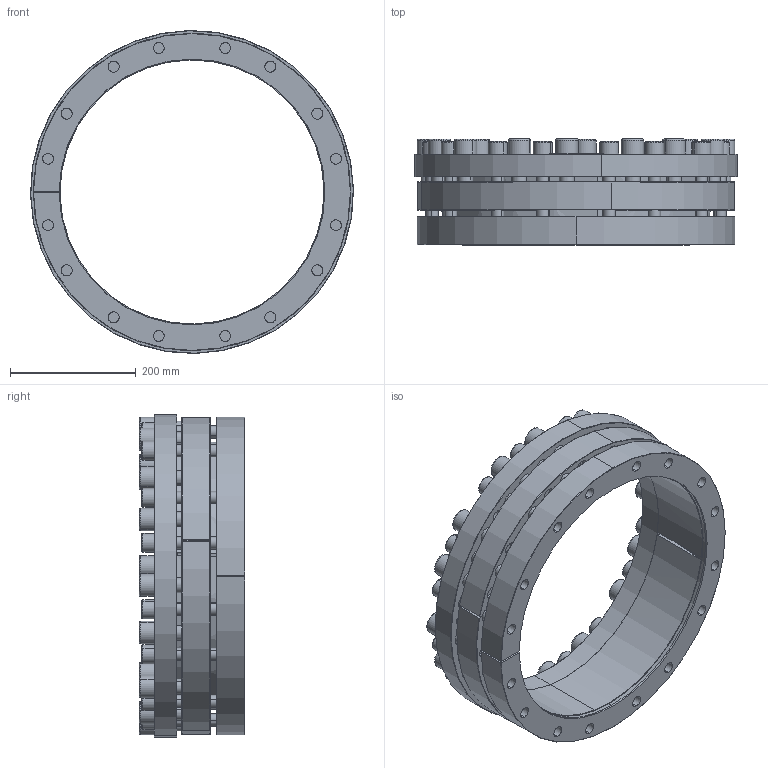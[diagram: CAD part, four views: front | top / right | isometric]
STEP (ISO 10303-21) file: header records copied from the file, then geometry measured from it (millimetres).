
FILE_DESCRIPTION (( 'STEP AP214' ), '1' );
FILE_NAME ('CONEX-P-420x505-P-015.step', '2015-11-30T21:14:53', ( '' ), ( '' ), 'SwSTEP 2.0', 'SolidWorks 2013', '' );
FILE_SCHEMA (( 'AUTOMOTIVE_DESIGN' ));
Length unit declared in the file: millimetre
Products named in the file (1): CONEX-P-420x505-P-015
Bounding box: 513.92 x 168.01 x 513.92 mm (x, y, z)
Volume: 8577931.9 mm3; surface area: 1531203.2 mm2
Topology: 35 solids, 35 shells, 1115 faces, 2565 edges, 1521 vertices
Faces by surface type: plane 501, cylinder 323, cone 163, torus 128
Entity records: 43951 total; most frequent: DIRECTION 5912, CARTESIAN_POINT 5234, ORIENTED_EDGE 5002, EDGE_CURVE 2501, AXIS2_PLACEMENT_3D 2319, VERTEX_POINT 1521, EDGE_LOOP 1356, VECTOR 1274
